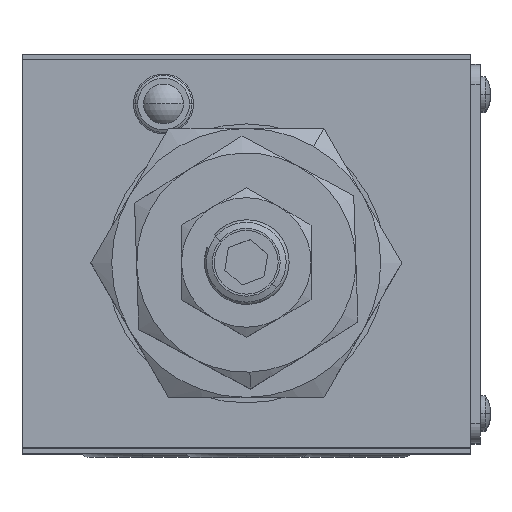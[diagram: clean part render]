
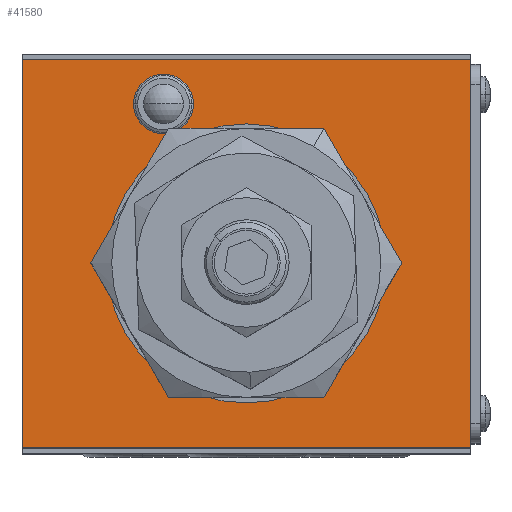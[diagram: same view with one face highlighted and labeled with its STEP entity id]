
A CAD part, top view. The second image highlights one B-rep face of the part: STEP entity #41580.
In plain terms, the highlighted planar face has unit normal (0, 0, 1).
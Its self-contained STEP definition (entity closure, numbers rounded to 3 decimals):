
#5177 = VECTOR ( 'NONE', #108710, 1000. ) ;
#9017 = EDGE_CURVE ( 'NONE', #52373, #89015, #50066, .T. ) ;
#9550 = ORIENTED_EDGE ( 'NONE', *, *, #40086, .F. ) ;
#11095 = EDGE_LOOP ( 'NONE', ( #9550, #89278 ) ) ;
#13520 = CARTESIAN_POINT ( 'NONE',  ( 22.5, 20., 46.5 ) ) ;
#16334 = AXIS2_PLACEMENT_3D ( 'NONE', #83809, #28736, #93075 ) ;
#18803 = FACE_BOUND ( 'NONE', #49626, .T. ) ;
#19600 = DIRECTION ( 'NONE',  ( -1., 0., 0. ) ) ;
#20161 = CARTESIAN_POINT ( 'NONE',  ( -22.5, 19.5, 46.5 ) ) ;
#26469 = VERTEX_POINT ( 'NONE', #83350 ) ;
#26902 = CARTESIAN_POINT ( 'NONE',  ( -11.3, 15., 46.5 ) ) ;
#27427 = ORIENTED_EDGE ( 'NONE', *, *, #27484, .F. ) ;
#27484 = EDGE_CURVE ( 'NONE', #26469, #114278, #58066, .T. ) ;
#27753 = CARTESIAN_POINT ( 'NONE',  ( -22.5, -20., 46.5 ) ) ;
#28736 = DIRECTION ( 'NONE',  ( 0., 0., 1. ) ) ;
#30436 = VECTOR ( 'NONE', #67855, 1000. ) ;
#30695 = CARTESIAN_POINT ( 'NONE',  ( -22.5, 20., 46.5 ) ) ;
#30890 = CARTESIAN_POINT ( 'NONE',  ( -5.3, 15., 46.5 ) ) ;
#33108 = VERTEX_POINT ( 'NONE', #26902 ) ;
#34786 = DIRECTION ( 'NONE',  ( 0., 0., 1. ) ) ;
#36968 = CARTESIAN_POINT ( 'NONE',  ( 22.5, 19.5, 46.5 ) ) ;
#39011 = VECTOR ( 'NONE', #86181, 1000. ) ;
#40086 = EDGE_CURVE ( 'NONE', #89015, #52373, #74022, .T. ) ;
#41580 = ADVANCED_FACE ( 'NONE', ( #18803, #46114, #89297 ), #82849, .T. ) ;
#44095 = CARTESIAN_POINT ( 'NONE',  ( -8.3, 15., 46.5 ) ) ;
#46114 = FACE_BOUND ( 'NONE', #11095, .T. ) ;
#46218 = DIRECTION ( 'NONE',  ( 1., 0., 0. ) ) ;
#49191 = CARTESIAN_POINT ( 'NONE',  ( -22.5, -19.5, 46.5 ) ) ;
#49626 = EDGE_LOOP ( 'NONE', ( #109188, #50220 ) ) ;
#50066 = CIRCLE ( 'NONE', #16334, 14. ) ;
#50220 = ORIENTED_EDGE ( 'NONE', *, *, #81006, .F. ) ;
#52373 = VERTEX_POINT ( 'NONE', #55618 ) ;
#52789 = CARTESIAN_POINT ( 'NONE',  ( -8.3, 15., 46.5 ) ) ;
#53120 = AXIS2_PLACEMENT_3D ( 'NONE', #44095, #108497, #53373 ) ;
#53373 = DIRECTION ( 'NONE',  ( 1., 0., 0. ) ) ;
#53684 = ORIENTED_EDGE ( 'NONE', *, *, #109707, .T. ) ;
#55461 = AXIS2_PLACEMENT_3D ( 'NONE', #89877, #34786, #99176 ) ;
#55618 = CARTESIAN_POINT ( 'NONE',  ( -14., -1., 46.5 ) ) ;
#55823 = CIRCLE ( 'NONE', #88085, 3. ) ;
#58066 = LINE ( 'NONE', #74741, #104123 ) ;
#58327 = EDGE_CURVE ( 'NONE', #85138, #33108, #55823, .T. ) ;
#62058 = DIRECTION ( 'NONE',  ( 1., 0., 0. ) ) ;
#62461 = CARTESIAN_POINT ( 'NONE',  ( -22.5, 19.5, 46.5 ) ) ;
#64447 = EDGE_CURVE ( 'NONE', #69915, #114278, #112457, .T. ) ;
#67855 = DIRECTION ( 'NONE',  ( 0., 1., 0. ) ) ;
#69915 = VERTEX_POINT ( 'NONE', #20161 ) ;
#74022 = CIRCLE ( 'NONE', #55461, 14. ) ;
#74741 = CARTESIAN_POINT ( 'NONE',  ( 22.5, -19.5, 46.5 ) ) ;
#78507 = LINE ( 'NONE', #62461, #5177 ) ;
#81006 = EDGE_CURVE ( 'NONE', #33108, #85138, #111788, .T. ) ;
#81919 = EDGE_LOOP ( 'NONE', ( #27427, #53684, #109162, #112390 ) ) ;
#82849 = PLANE ( 'NONE',  #101165 ) ;
#83350 = CARTESIAN_POINT ( 'NONE',  ( 22.5, -19.5, 46.5 ) ) ;
#83809 = CARTESIAN_POINT ( 'NONE',  ( 0., -1., 46.5 ) ) ;
#85138 = VERTEX_POINT ( 'NONE', #30890 ) ;
#86181 = DIRECTION ( 'NONE',  ( 0., -1., 0. ) ) ;
#88085 = AXIS2_PLACEMENT_3D ( 'NONE', #52789, #117161, #62058 ) ;
#89015 = VERTEX_POINT ( 'NONE', #114775 ) ;
#89278 = ORIENTED_EDGE ( 'NONE', *, *, #9017, .F. ) ;
#89297 = FACE_OUTER_BOUND ( 'NONE', #81919, .T. ) ;
#89877 = CARTESIAN_POINT ( 'NONE',  ( 0., -1., 46.5 ) ) ;
#93075 = DIRECTION ( 'NONE',  ( 1., 0., 0. ) ) ;
#99176 = DIRECTION ( 'NONE',  ( 1., 0., 0. ) ) ;
#99865 = VERTEX_POINT ( 'NONE', #36968 ) ;
#100974 = LINE ( 'NONE', #13520, #30436 ) ;
#101165 = AXIS2_PLACEMENT_3D ( 'NONE', #27753, #101395, #46218 ) ;
#101395 = DIRECTION ( 'NONE',  ( 0., 0., 1. ) ) ;
#104123 = VECTOR ( 'NONE', #19600, 1000. ) ;
#108497 = DIRECTION ( 'NONE',  ( 0., 0., 1. ) ) ;
#108710 = DIRECTION ( 'NONE',  ( 1., 0., 0. ) ) ;
#109162 = ORIENTED_EDGE ( 'NONE', *, *, #118681, .F. ) ;
#109188 = ORIENTED_EDGE ( 'NONE', *, *, #58327, .F. ) ;
#109707 = EDGE_CURVE ( 'NONE', #26469, #99865, #100974, .T. ) ;
#111788 = CIRCLE ( 'NONE', #53120, 3. ) ;
#112390 = ORIENTED_EDGE ( 'NONE', *, *, #64447, .T. ) ;
#112457 = LINE ( 'NONE', #30695, #39011 ) ;
#114278 = VERTEX_POINT ( 'NONE', #49191 ) ;
#114775 = CARTESIAN_POINT ( 'NONE',  ( 14., -1., 46.5 ) ) ;
#117161 = DIRECTION ( 'NONE',  ( 0., 0., 1. ) ) ;
#118681 = EDGE_CURVE ( 'NONE', #69915, #99865, #78507, .T. ) ;
